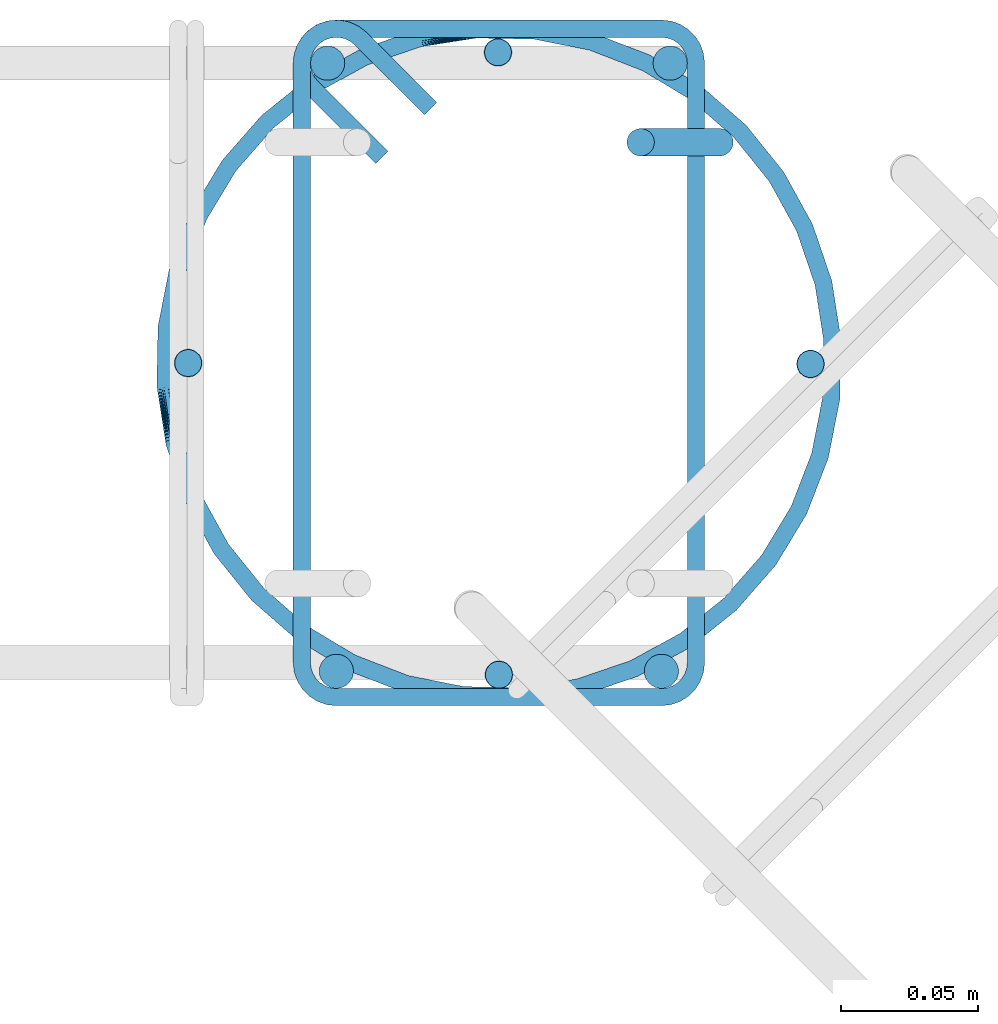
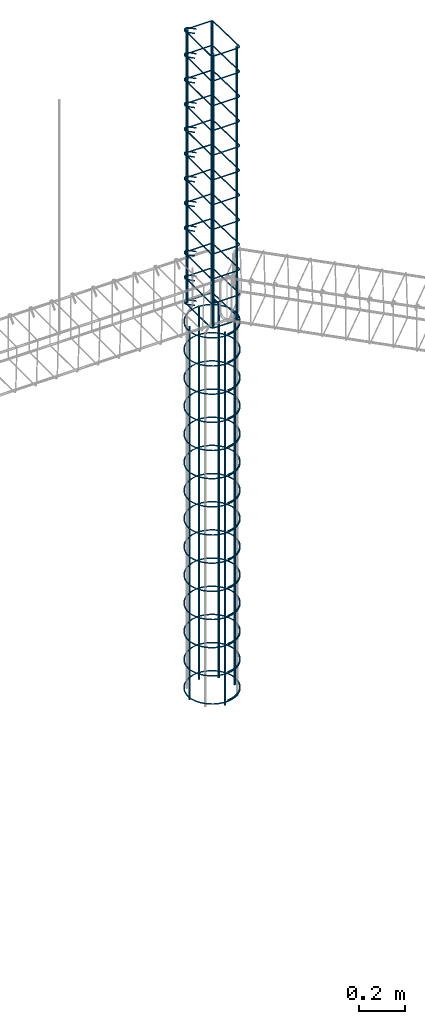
# One storey, part 12 of 14: 7 reinforcing bars.
"""IFC4 building model written with IfcOpenShell, lengths in centimetres."""

from ifc_helpers import new_model, entity, si_unit, converted_unit, derived_unit, direction, frame, origin, place, context, subcontext, project, spatial, type_object, element, save


model = new_model("IFC4")

# Units and contexts
model_context = context("Model", 3, precision=0.001, world=origin(), true_north=direction((6.123233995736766e-17, 1.0)))
body_context = subcontext(model_context, "Body", "Model", "MODEL_VIEW")
ifc_project = project(units=[si_unit("LENGTHUNIT", "METRE", prefix="CENTI"), si_unit("AREAUNIT", "SQUARE_METRE"), converted_unit("PLANEANGLEUNIT", "DEGREE", entity("IfcPlaneAngleMeasure", 0.017453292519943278), si_unit("PLANEANGLEUNIT", "RADIAN"), dimensions=[0, 0, 0, 0, 0, 0, 0]), si_unit("VOLUMEUNIT", "CUBIC_METRE"), derived_unit("THERMALTRANSMITTANCEUNIT", [(si_unit("MASSUNIT", "GRAM", prefix="KILO"), 1), (si_unit("THERMODYNAMICTEMPERATUREUNIT", "KELVIN"), -1), (si_unit("TIMEUNIT", "SECOND"), -3)])], contexts=[model_context])

# Site, building, storey
site_placement = place(None, origin())
site = spatial("IfcSite", under=ifc_project, at=site_placement, Name="Default", CompositionType="ELEMENT")
building_placement = place(site_placement, origin())
building = spatial("IfcBuilding", under=site, at=building_placement, Name="CONTENÇÃO DE ARQUIBANCADA - GINÁSIO PADRÃO", CompositionType="ELEMENT")
storey_placement = place(building_placement, frame((0.0, 0.0, -100.0)))
storey = spatial("IfcBuildingStorey", under=building, at=storey_placement, Name="Nível 3", CompositionType="ELEMENT", Elevation=-100.0)

# Reinforcing bars
reinforcing_bar_type_1 = type_object("IfcReinforcingBarType", Name="Barra do vergalhão:10 CA-50", PredefinedType="NOTDEFINED")
reinforcing_bar_1_placement = place(storey_placement, origin())
element("IfcReinforcingBar", 1, at=reinforcing_bar_1_placement, inside=storey, type_object=reinforcing_bar_type_1, Name="Barra do vergalhão:10 CA-50 : Forma 01", ObjectType="Barra do vergalhão:10 CA-50", context=body_context, shape_type="AdvancedSweptSolid", body=[
    entity("IfcSweptDiskSolid", entity("IfcIndexedPolyCurve", entity("IfcCartesianPointList3D", [[543.1267334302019, 249.06545923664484, -129.99999999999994], [543.1267334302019, 249.06545923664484, 68.00000000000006]]), None, False), 0.5, None, 0.0, 1.0),
    entity("IfcSweptDiskSolid", entity("IfcIndexedPolyCurve", entity("IfcCartesianPointList3D", [[565.8166005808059, 249.0327573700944, -129.99999999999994], [565.8166005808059, 249.0327573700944, 68.00000000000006]]), None, False), 0.5, None, 0.0, 1.0),
])
reinforcing_bar_2_placement = place(storey_placement, origin())
element("IfcReinforcingBar", 2, at=reinforcing_bar_2_placement, inside=storey, type_object=reinforcing_bar_type_1, Name="Barra do vergalhão:10 CA-50 : Forma 01", ObjectType="Barra do vergalhão:10 CA-50", context=body_context, shape_type="AdvancedSweptSolid", body=[
    entity("IfcSweptDiskSolid", entity("IfcIndexedPolyCurve", entity("IfcCartesianPointList3D", [[554.4226142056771, 260.39404187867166, -129.99999999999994], [554.4226142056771, 260.39404187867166, 68.00000000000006]]), None, False), 0.5, None, 0.0, 1.0),
    entity("IfcSweptDiskSolid", entity("IfcIndexedPolyCurve", entity("IfcCartesianPointList3D", [[554.4553160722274, 237.70417472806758, -129.99999999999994], [554.4553160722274, 237.70417472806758, 68.00000000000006]]), None, False), 0.5, None, 0.0, 1.0),
])
reinforcing_bar_3_placement = place(storey_placement, origin())
element("IfcReinforcingBar", 3, at=reinforcing_bar_3_placement, inside=storey, type_object=reinforcing_bar_type_1, Name="Barra do vergalhão:10 CA-50 : Forma 19", ObjectType="Barra do vergalhão:10 CA-50", context=body_context, shape_type="AdvancedSweptSolid", body=[
    entity("IfcSweptDiskSolid", entity("IfcIndexedPolyCurve", entity("IfcCartesianPointList3D", [[562.4961308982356, 257.11499005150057, -129.99999999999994], [562.496130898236, 257.11499005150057, 67.4289900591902], [562.3214814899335, 257.11499005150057, 68.43764958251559], [561.8178682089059, 257.11499005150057, 69.32886791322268], [560.3023062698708, 257.11499005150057, 71.18095366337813], [559.7986929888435, 257.11499005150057, 72.07217199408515], [559.6240435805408, 257.1149900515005, 73.08083151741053], [559.6240435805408, 257.1149900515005, 92.00982157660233]]), [entity("IfcLineIndex", [1, 2]), entity("IfcArcIndex", [2, 3, 4]), entity("IfcLineIndex", [4, 5]), entity("IfcArcIndex", [5, 6, 7]), entity("IfcLineIndex", [7, 8])], False), 0.5, None, 0.0, 81.58693171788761),
])
reinforcing_bar_type_2 = type_object("IfcReinforcingBarType", Name="Barra do vergalhão:12.5 CA-50", PredefinedType="NOTDEFINED")
reinforcing_bar_4_placement = place(storey_placement, origin())
element("IfcReinforcingBar", 4, at=reinforcing_bar_4_placement, inside=storey, type_object=reinforcing_bar_type_2, Name="Barra do vergalhão:12.5 CA-50 : Forma 01", ObjectType="Barra do vergalhão:12.5 CA-50", context=body_context, shape_type="AdvancedSweptSolid", body=[
    entity("IfcSweptDiskSolid", entity("IfcIndexedPolyCurve", entity("IfcCartesianPointList3D", [[560.7003160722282, 259.9991752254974, 72.5], [560.7003160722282, 259.9991752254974, 217.5]]), None, False), 0.625, None, 0.0, 1.0),
    entity("IfcSweptDiskSolid", entity("IfcIndexedPolyCurve", entity("IfcCartesianPointList3D", [[548.2103160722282, 259.9991752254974, 72.5], [548.2103160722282, 259.9991752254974, 217.5]]), None, False), 0.625, None, 0.0, 1.0),
])
reinforcing_bar_5_placement = place(storey_placement, origin())
element("IfcReinforcingBar", 5, at=reinforcing_bar_5_placement, inside=storey, type_object=reinforcing_bar_type_2, Name="Barra do vergalhão:12.5 CA-50 : Forma 01", ObjectType="Barra do vergalhão:12.5 CA-50", context=body_context, shape_type="AdvancedSweptSolid", body=[
    entity("IfcSweptDiskSolid", entity("IfcIndexedPolyCurve", entity("IfcCartesianPointList3D", [[548.5303160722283, 237.82917522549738, 72.5], [548.5303160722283, 237.82917522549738, 217.5]]), None, False), 0.625, None, 0.0, 1.0),
    entity("IfcSweptDiskSolid", entity("IfcIndexedPolyCurve", entity("IfcCartesianPointList3D", [[560.3803160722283, 237.82917522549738, 72.5], [560.3803160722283, 237.82917522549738, 217.5]]), None, False), 0.625, None, 0.0, 1.0),
])
reinforcing_bar_type_3 = type_object("IfcReinforcingBarType", Name="Barra do vergalhão:6.3 CA-50", PredefinedType="NOTDEFINED")
reinforcing_bar_6_placement = place(storey_placement, origin())
element("IfcReinforcingBar", 6, at=reinforcing_bar_6_placement, inside=storey, type_object=reinforcing_bar_type_3, Name="Barra do vergalhão:6.3 CA-50 : Forma 22", ObjectType="Barra do vergalhão:6.3 CA-50", context=body_context, shape_type="AdvancedSweptSolid", body=[
    entity("IfcSweptDiskSolid", entity("IfcIndexedPolyCurve", entity("IfcCartesianPointList3D", [[551.971235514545, 258.34016487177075, 72.815], [549.4212706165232, 260.89012976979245, 72.815], [548.0481349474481, 261.16326343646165, 72.815], [547.2703160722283, 259.9991752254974, 72.815], [547.2703160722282, 238.1491752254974, 72.815], [547.6393615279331, 237.25822068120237, 72.815], [548.5303160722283, 236.8891752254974, 72.815], [560.3803160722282, 236.8891752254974, 72.815], [561.2712706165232, 237.25809742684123, 72.80546282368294], [561.6403160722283, 238.14875440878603, 72.78243804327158], [561.6403160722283, 259.9995960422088, 72.21756195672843], [561.2712706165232, 260.8902530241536, 72.19453717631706], [560.3803160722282, 261.2591752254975, 72.185], [548.5303160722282, 261.2591752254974, 72.185], [547.366227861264, 260.4813563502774, 72.185], [547.6393615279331, 259.1082206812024, 72.185], [550.189326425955, 256.55825578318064, 72.185]]), [entity("IfcLineIndex", [1, 2]), entity("IfcArcIndex", [2, 3, 4]), entity("IfcLineIndex", [4, 5]), entity("IfcArcIndex", [5, 6, 7]), entity("IfcLineIndex", [7, 8]), entity("IfcArcIndex", [8, 9, 10]), entity("IfcLineIndex", [10, 11]), entity("IfcArcIndex", [11, 12, 13]), entity("IfcLineIndex", [13, 14]), entity("IfcArcIndex", [14, 15, 16]), entity("IfcLineIndex", [16, 17])], False), 0.31499999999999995, None, 0.0, 546.0000000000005),
    entity("IfcSweptDiskSolid", entity("IfcIndexedPolyCurve", entity("IfcCartesianPointList3D", [[551.971235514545, 258.34016487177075, 85.93954545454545], [549.4212706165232, 260.89012976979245, 85.93954545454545], [548.0481349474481, 261.16326343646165, 85.93954545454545], [547.2703160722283, 259.9991752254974, 85.93954545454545], [547.2703160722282, 238.1491752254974, 85.93954545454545], [547.6393615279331, 237.25822068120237, 85.93954545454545], [548.5303160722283, 236.8891752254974, 85.93954545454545], [560.3803160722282, 236.8891752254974, 85.93954545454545], [561.2712706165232, 237.25809742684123, 85.93000827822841], [561.6403160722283, 238.14875440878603, 85.90698349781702], [561.6403160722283, 259.9995960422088, 85.34210741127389], [561.2712706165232, 260.8902530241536, 85.31908263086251], [560.3803160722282, 261.2591752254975, 85.30954545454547], [548.5303160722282, 261.2591752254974, 85.30954545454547], [547.366227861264, 260.4813563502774, 85.30954545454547], [547.6393615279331, 259.1082206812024, 85.30954545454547], [550.189326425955, 256.55825578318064, 85.30954545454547]]), [entity("IfcLineIndex", [1, 2]), entity("IfcArcIndex", [2, 3, 4]), entity("IfcLineIndex", [4, 5]), entity("IfcArcIndex", [5, 6, 7]), entity("IfcLineIndex", [7, 8]), entity("IfcArcIndex", [8, 9, 10]), entity("IfcLineIndex", [10, 11]), entity("IfcArcIndex", [11, 12, 13]), entity("IfcLineIndex", [13, 14]), entity("IfcArcIndex", [14, 15, 16]), entity("IfcLineIndex", [16, 17])], False), 0.31499999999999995, None, 0.0, 546.0000000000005),
    entity("IfcSweptDiskSolid", entity("IfcIndexedPolyCurve", entity("IfcCartesianPointList3D", [[551.971235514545, 258.34016487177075, 99.06409090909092], [549.4212706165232, 260.89012976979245, 99.06409090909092], [548.0481349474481, 261.16326343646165, 99.06409090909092], [547.2703160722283, 259.9991752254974, 99.06409090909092], [547.2703160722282, 238.1491752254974, 99.06409090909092], [547.6393615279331, 237.25822068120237, 99.06409090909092], [548.5303160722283, 236.8891752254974, 99.06409090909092], [560.3803160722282, 236.8891752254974, 99.06409090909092], [561.2712706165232, 237.25809742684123, 99.05455373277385], [561.6403160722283, 238.14875440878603, 99.03152895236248], [561.6403160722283, 259.9995960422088, 98.46665286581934], [561.2712706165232, 260.8902530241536, 98.44362808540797], [560.3803160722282, 261.2591752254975, 98.43409090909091], [548.5303160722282, 261.2591752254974, 98.43409090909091], [547.366227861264, 260.4813563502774, 98.43409090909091], [547.6393615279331, 259.1082206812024, 98.43409090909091], [550.189326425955, 256.55825578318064, 98.43409090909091]]), [entity("IfcLineIndex", [1, 2]), entity("IfcArcIndex", [2, 3, 4]), entity("IfcLineIndex", [4, 5]), entity("IfcArcIndex", [5, 6, 7]), entity("IfcLineIndex", [7, 8]), entity("IfcArcIndex", [8, 9, 10]), entity("IfcLineIndex", [10, 11]), entity("IfcArcIndex", [11, 12, 13]), entity("IfcLineIndex", [13, 14]), entity("IfcArcIndex", [14, 15, 16]), entity("IfcLineIndex", [16, 17])], False), 0.31499999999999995, None, 0.0, 546.0000000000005),
    entity("IfcSweptDiskSolid", entity("IfcIndexedPolyCurve", entity("IfcCartesianPointList3D", [[551.971235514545, 258.34016487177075, 112.18863636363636], [549.4212706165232, 260.89012976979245, 112.18863636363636], [548.0481349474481, 261.16326343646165, 112.18863636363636], [547.2703160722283, 259.9991752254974, 112.18863636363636], [547.2703160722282, 238.1491752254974, 112.18863636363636], [547.6393615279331, 237.25822068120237, 112.18863636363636], [548.5303160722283, 236.8891752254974, 112.18863636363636], [560.3803160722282, 236.8891752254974, 112.18863636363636], [561.2712706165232, 237.25809742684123, 112.17909918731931], [561.6403160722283, 238.14875440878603, 112.15607440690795], [561.6403160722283, 259.9995960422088, 111.5911983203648], [561.2712706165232, 260.8902530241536, 111.56817353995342], [560.3803160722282, 261.2591752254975, 111.55863636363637], [548.5303160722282, 261.2591752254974, 111.55863636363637], [547.366227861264, 260.4813563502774, 111.55863636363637], [547.6393615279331, 259.1082206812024, 111.55863636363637], [550.189326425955, 256.55825578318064, 111.55863636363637]]), [entity("IfcLineIndex", [1, 2]), entity("IfcArcIndex", [2, 3, 4]), entity("IfcLineIndex", [4, 5]), entity("IfcArcIndex", [5, 6, 7]), entity("IfcLineIndex", [7, 8]), entity("IfcArcIndex", [8, 9, 10]), entity("IfcLineIndex", [10, 11]), entity("IfcArcIndex", [11, 12, 13]), entity("IfcLineIndex", [13, 14]), entity("IfcArcIndex", [14, 15, 16]), entity("IfcLineIndex", [16, 17])], False), 0.31499999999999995, None, 0.0, 546.0000000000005),
    entity("IfcSweptDiskSolid", entity("IfcIndexedPolyCurve", entity("IfcCartesianPointList3D", [[551.971235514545, 258.34016487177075, 125.31318181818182], [549.4212706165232, 260.89012976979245, 125.31318181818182], [548.0481349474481, 261.16326343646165, 125.31318181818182], [547.2703160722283, 259.9991752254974, 125.31318181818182], [547.2703160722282, 238.1491752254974, 125.31318181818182], [547.6393615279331, 237.25822068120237, 125.31318181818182], [548.5303160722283, 236.8891752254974, 125.31318181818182], [560.3803160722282, 236.8891752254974, 125.31318181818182], [561.2712706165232, 237.25809742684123, 125.30364464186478], [561.6403160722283, 238.14875440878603, 125.28061986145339], [561.6403160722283, 259.9995960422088, 124.71574377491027], [561.2712706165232, 260.8902530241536, 124.69271899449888], [560.3803160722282, 261.2591752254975, 124.68318181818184], [548.5303160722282, 261.2591752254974, 124.68318181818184], [547.366227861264, 260.4813563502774, 124.68318181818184], [547.6393615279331, 259.1082206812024, 124.68318181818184], [550.189326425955, 256.55825578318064, 124.68318181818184]]), [entity("IfcLineIndex", [1, 2]), entity("IfcArcIndex", [2, 3, 4]), entity("IfcLineIndex", [4, 5]), entity("IfcArcIndex", [5, 6, 7]), entity("IfcLineIndex", [7, 8]), entity("IfcArcIndex", [8, 9, 10]), entity("IfcLineIndex", [10, 11]), entity("IfcArcIndex", [11, 12, 13]), entity("IfcLineIndex", [13, 14]), entity("IfcArcIndex", [14, 15, 16]), entity("IfcLineIndex", [16, 17])], False), 0.31499999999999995, None, 0.0, 546.0000000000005),
    entity("IfcSweptDiskSolid", entity("IfcIndexedPolyCurve", entity("IfcCartesianPointList3D", [[551.971235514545, 258.34016487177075, 138.43772727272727], [549.4212706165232, 260.89012976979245, 138.43772727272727], [548.0481349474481, 261.16326343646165, 138.43772727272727], [547.2703160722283, 259.9991752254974, 138.43772727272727], [547.2703160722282, 238.1491752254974, 138.43772727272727], [547.6393615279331, 237.25822068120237, 138.43772727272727], [548.5303160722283, 236.8891752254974, 138.43772727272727], [560.3803160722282, 236.8891752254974, 138.43772727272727], [561.2712706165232, 237.25809742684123, 138.42819009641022], [561.6403160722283, 238.14875440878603, 138.40516531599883], [561.6403160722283, 259.9995960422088, 137.84028922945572], [561.2712706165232, 260.8902530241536, 137.81726444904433], [560.3803160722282, 261.2591752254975, 137.80772727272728], [548.5303160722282, 261.2591752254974, 137.80772727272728], [547.366227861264, 260.4813563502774, 137.80772727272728], [547.6393615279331, 259.1082206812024, 137.80772727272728], [550.189326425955, 256.55825578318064, 137.80772727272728]]), [entity("IfcLineIndex", [1, 2]), entity("IfcArcIndex", [2, 3, 4]), entity("IfcLineIndex", [4, 5]), entity("IfcArcIndex", [5, 6, 7]), entity("IfcLineIndex", [7, 8]), entity("IfcArcIndex", [8, 9, 10]), entity("IfcLineIndex", [10, 11]), entity("IfcArcIndex", [11, 12, 13]), entity("IfcLineIndex", [13, 14]), entity("IfcArcIndex", [14, 15, 16]), entity("IfcLineIndex", [16, 17])], False), 0.31499999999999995, None, 0.0, 546.0000000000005),
    entity("IfcSweptDiskSolid", entity("IfcIndexedPolyCurve", entity("IfcCartesianPointList3D", [[551.971235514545, 258.34016487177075, 151.56227272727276], [549.4212706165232, 260.89012976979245, 151.56227272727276], [548.0481349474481, 261.16326343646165, 151.56227272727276], [547.2703160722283, 259.9991752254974, 151.56227272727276], [547.2703160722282, 238.1491752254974, 151.56227272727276], [547.6393615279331, 237.25822068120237, 151.56227272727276], [548.5303160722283, 236.8891752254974, 151.56227272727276], [560.3803160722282, 236.8891752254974, 151.56227272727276], [561.2712706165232, 237.25809742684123, 151.55273555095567], [561.6403160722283, 238.14875440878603, 151.5297107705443], [561.6403160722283, 259.9995960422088, 150.96483468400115], [561.2712706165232, 260.8902530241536, 150.94180990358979], [560.3803160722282, 261.2591752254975, 150.93227272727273], [548.5303160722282, 261.2591752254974, 150.93227272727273], [547.366227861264, 260.4813563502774, 150.93227272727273], [547.6393615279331, 259.1082206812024, 150.93227272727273], [550.189326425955, 256.55825578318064, 150.93227272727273]]), [entity("IfcLineIndex", [1, 2]), entity("IfcArcIndex", [2, 3, 4]), entity("IfcLineIndex", [4, 5]), entity("IfcArcIndex", [5, 6, 7]), entity("IfcLineIndex", [7, 8]), entity("IfcArcIndex", [8, 9, 10]), entity("IfcLineIndex", [10, 11]), entity("IfcArcIndex", [11, 12, 13]), entity("IfcLineIndex", [13, 14]), entity("IfcArcIndex", [14, 15, 16]), entity("IfcLineIndex", [16, 17])], False), 0.31499999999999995, None, 0.0, 546.0000000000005),
    entity("IfcSweptDiskSolid", entity("IfcIndexedPolyCurve", entity("IfcCartesianPointList3D", [[551.971235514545, 258.34016487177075, 164.68681818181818], [549.4212706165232, 260.89012976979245, 164.68681818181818], [548.0481349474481, 261.16326343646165, 164.68681818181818], [547.2703160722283, 259.9991752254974, 164.68681818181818], [547.2703160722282, 238.1491752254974, 164.68681818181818], [547.6393615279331, 237.25822068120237, 164.68681818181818], [548.5303160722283, 236.8891752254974, 164.68681818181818], [560.3803160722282, 236.8891752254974, 164.68681818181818], [561.2712706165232, 237.25809742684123, 164.67728100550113], [561.6403160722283, 238.14875440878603, 164.65425622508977], [561.6403160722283, 259.9995960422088, 164.0893801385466], [561.2712706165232, 260.8902530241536, 164.06635535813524], [560.3803160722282, 261.2591752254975, 164.0568181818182], [548.5303160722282, 261.2591752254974, 164.0568181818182], [547.366227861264, 260.4813563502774, 164.0568181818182], [547.6393615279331, 259.1082206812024, 164.0568181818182], [550.189326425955, 256.55825578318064, 164.0568181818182]]), [entity("IfcLineIndex", [1, 2]), entity("IfcArcIndex", [2, 3, 4]), entity("IfcLineIndex", [4, 5]), entity("IfcArcIndex", [5, 6, 7]), entity("IfcLineIndex", [7, 8]), entity("IfcArcIndex", [8, 9, 10]), entity("IfcLineIndex", [10, 11]), entity("IfcArcIndex", [11, 12, 13]), entity("IfcLineIndex", [13, 14]), entity("IfcArcIndex", [14, 15, 16]), entity("IfcLineIndex", [16, 17])], False), 0.31499999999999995, None, 0.0, 546.0000000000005),
    entity("IfcSweptDiskSolid", entity("IfcIndexedPolyCurve", entity("IfcCartesianPointList3D", [[551.971235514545, 258.34016487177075, 177.81136363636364], [549.4212706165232, 260.89012976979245, 177.81136363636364], [548.0481349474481, 261.16326343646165, 177.81136363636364], [547.2703160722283, 259.9991752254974, 177.81136363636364], [547.2703160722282, 238.1491752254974, 177.81136363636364], [547.6393615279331, 237.25822068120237, 177.81136363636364], [548.5303160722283, 236.8891752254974, 177.81136363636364], [560.3803160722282, 236.8891752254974, 177.81136363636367], [561.2712706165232, 237.25809742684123, 177.8018264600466], [561.6403160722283, 238.14875440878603, 177.77880167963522], [561.6403160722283, 259.9995960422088, 177.21392559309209], [561.2712706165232, 260.8902530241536, 177.1909008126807], [560.3803160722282, 261.2591752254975, 177.18136363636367], [548.5303160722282, 261.2591752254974, 177.18136363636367], [547.366227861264, 260.4813563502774, 177.18136363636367], [547.6393615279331, 259.1082206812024, 177.18136363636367], [550.189326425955, 256.55825578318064, 177.18136363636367]]), [entity("IfcLineIndex", [1, 2]), entity("IfcArcIndex", [2, 3, 4]), entity("IfcLineIndex", [4, 5]), entity("IfcArcIndex", [5, 6, 7]), entity("IfcLineIndex", [7, 8]), entity("IfcArcIndex", [8, 9, 10]), entity("IfcLineIndex", [10, 11]), entity("IfcArcIndex", [11, 12, 13]), entity("IfcLineIndex", [13, 14]), entity("IfcArcIndex", [14, 15, 16]), entity("IfcLineIndex", [16, 17])], False), 0.31499999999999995, None, 0.0, 546.0000000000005),
    entity("IfcSweptDiskSolid", entity("IfcIndexedPolyCurve", entity("IfcCartesianPointList3D", [[551.971235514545, 258.34016487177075, 190.93590909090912], [549.4212706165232, 260.89012976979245, 190.93590909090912], [548.0481349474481, 261.16326343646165, 190.93590909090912], [547.2703160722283, 259.9991752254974, 190.93590909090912], [547.2703160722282, 238.1491752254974, 190.93590909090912], [547.6393615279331, 237.25822068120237, 190.93590909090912], [548.5303160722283, 236.8891752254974, 190.93590909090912], [560.3803160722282, 236.8891752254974, 190.93590909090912], [561.2712706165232, 237.25809742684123, 190.92637191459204], [561.6403160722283, 238.14875440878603, 190.90334713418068], [561.6403160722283, 259.9995960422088, 190.33847104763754], [561.2712706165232, 260.8902530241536, 190.31544626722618], [560.3803160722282, 261.2591752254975, 190.30590909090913], [548.5303160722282, 261.2591752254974, 190.30590909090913], [547.366227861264, 260.4813563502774, 190.30590909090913], [547.6393615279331, 259.1082206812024, 190.30590909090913], [550.189326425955, 256.55825578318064, 190.30590909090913]]), [entity("IfcLineIndex", [1, 2]), entity("IfcArcIndex", [2, 3, 4]), entity("IfcLineIndex", [4, 5]), entity("IfcArcIndex", [5, 6, 7]), entity("IfcLineIndex", [7, 8]), entity("IfcArcIndex", [8, 9, 10]), entity("IfcLineIndex", [10, 11]), entity("IfcArcIndex", [11, 12, 13]), entity("IfcLineIndex", [13, 14]), entity("IfcArcIndex", [14, 15, 16]), entity("IfcLineIndex", [16, 17])], False), 0.31499999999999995, None, 0.0, 546.0000000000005),
    entity("IfcSweptDiskSolid", entity("IfcIndexedPolyCurve", entity("IfcCartesianPointList3D", [[551.971235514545, 258.34016487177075, 204.06045454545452], [549.4212706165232, 260.89012976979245, 204.06045454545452], [548.0481349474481, 261.16326343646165, 204.06045454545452], [547.2703160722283, 259.9991752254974, 204.06045454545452], [547.2703160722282, 238.1491752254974, 204.06045454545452], [547.6393615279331, 237.25822068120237, 204.06045454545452], [548.5303160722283, 236.8891752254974, 204.06045454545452], [560.3803160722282, 236.8891752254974, 204.06045454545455], [561.2712706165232, 237.25809742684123, 204.0509173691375], [561.6403160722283, 238.14875440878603, 204.02789258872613], [561.6403160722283, 259.9995960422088, 203.46301650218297], [561.2712706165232, 260.8902530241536, 203.43999172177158], [560.3803160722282, 261.2591752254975, 203.43045454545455], [548.5303160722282, 261.2591752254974, 203.43045454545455], [547.366227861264, 260.4813563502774, 203.43045454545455], [547.6393615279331, 259.1082206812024, 203.43045454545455], [550.189326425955, 256.55825578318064, 203.43045454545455]]), [entity("IfcLineIndex", [1, 2]), entity("IfcArcIndex", [2, 3, 4]), entity("IfcLineIndex", [4, 5]), entity("IfcArcIndex", [5, 6, 7]), entity("IfcLineIndex", [7, 8]), entity("IfcArcIndex", [8, 9, 10]), entity("IfcLineIndex", [10, 11]), entity("IfcArcIndex", [11, 12, 13]), entity("IfcLineIndex", [13, 14]), entity("IfcArcIndex", [14, 15, 16]), entity("IfcLineIndex", [16, 17])], False), 0.31499999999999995, None, 0.0, 546.0000000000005),
    entity("IfcSweptDiskSolid", entity("IfcIndexedPolyCurve", entity("IfcCartesianPointList3D", [[551.971235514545, 258.34016487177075, 217.185], [549.4212706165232, 260.89012976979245, 217.185], [548.0481349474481, 261.16326343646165, 217.185], [547.2703160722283, 259.9991752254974, 217.185], [547.2703160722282, 238.1491752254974, 217.185], [547.6393615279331, 237.25822068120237, 217.185], [548.5303160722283, 236.8891752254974, 217.185], [560.3803160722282, 236.8891752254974, 217.18500000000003], [561.2712706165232, 237.25809742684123, 217.17546282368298], [561.6403160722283, 238.14875440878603, 217.1524380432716], [561.6403160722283, 259.9995960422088, 216.58756195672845], [561.2712706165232, 260.8902530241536, 216.56453717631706], [560.3803160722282, 261.2591752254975, 216.55500000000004], [548.5303160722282, 261.2591752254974, 216.55500000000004], [547.366227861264, 260.4813563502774, 216.55500000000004], [547.6393615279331, 259.1082206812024, 216.55500000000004], [550.189326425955, 256.55825578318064, 216.55500000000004]]), [entity("IfcLineIndex", [1, 2]), entity("IfcArcIndex", [2, 3, 4]), entity("IfcLineIndex", [4, 5]), entity("IfcArcIndex", [5, 6, 7]), entity("IfcLineIndex", [7, 8]), entity("IfcArcIndex", [8, 9, 10]), entity("IfcLineIndex", [10, 11]), entity("IfcArcIndex", [11, 12, 13]), entity("IfcLineIndex", [13, 14]), entity("IfcArcIndex", [14, 15, 16]), entity("IfcLineIndex", [16, 17])], False), 0.31499999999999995, None, 0.0, 546.0000000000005),
])
reinforcing_bar_7_placement = place(storey_placement, origin())
element("IfcReinforcingBar", 7, at=reinforcing_bar_7_placement, inside=storey, type_object=reinforcing_bar_type_3, Name="Barra do vergalhão:6.3 CA-50 : Forma 33", ObjectType="Barra do vergalhão:6.3 CA-50", context=body_context, shape_type="AdvancedSweptSolid", body=[
    entity("IfcSweptDiskSolid", entity("IfcIndexedPolyCurve", entity("IfcCartesianPointList3D", [[555.2748352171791, 236.91676541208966, -127.19078734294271], [566.6127258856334, 249.89369437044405, -127.19078734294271], [553.635796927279, 261.23158503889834, -127.19078734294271], [545.2792416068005, 257.0912746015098, -127.50578734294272], [542.2979062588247, 248.25465608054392, -127.82078734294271], [555.2748352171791, 236.91676541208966, -127.82078734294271], [566.6127258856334, 249.893694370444, -127.82078734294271]]), [entity("IfcArcIndex", [1, 2, 3]), entity("IfcArcIndex", [3, 4, 5]), entity("IfcArcIndex", [5, 6, 7])], False), 0.31499999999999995, None, 0.0, 449.9458977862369),
    entity("IfcSweptDiskSolid", entity("IfcIndexedPolyCurve", entity("IfcCartesianPointList3D", [[555.2748352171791, 236.91676541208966, -112.23880370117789], [566.6127258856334, 249.89369437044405, -112.23880370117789], [553.635796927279, 261.23158503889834, -112.23880370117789], [545.2792416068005, 257.0912746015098, -112.5538037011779], [542.2979062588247, 248.25465608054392, -112.86880370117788], [555.2748352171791, 236.91676541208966, -112.86880370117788], [566.6127258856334, 249.893694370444, -112.86880370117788]]), [entity("IfcArcIndex", [1, 2, 3]), entity("IfcArcIndex", [3, 4, 5]), entity("IfcArcIndex", [5, 6, 7])], False), 0.31499999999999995, None, 0.0, 449.9458977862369),
    entity("IfcSweptDiskSolid", entity("IfcIndexedPolyCurve", entity("IfcCartesianPointList3D", [[555.2748352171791, 236.91676541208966, -97.28682005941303], [566.6127258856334, 249.89369437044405, -97.28682005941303], [553.635796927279, 261.23158503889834, -97.28682005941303], [545.2792416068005, 257.0912746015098, -97.60182005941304], [542.2979062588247, 248.25465608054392, -97.91682005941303], [555.2748352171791, 236.91676541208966, -97.91682005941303], [566.6127258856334, 249.893694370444, -97.91682005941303]]), [entity("IfcArcIndex", [1, 2, 3]), entity("IfcArcIndex", [3, 4, 5]), entity("IfcArcIndex", [5, 6, 7])], False), 0.31499999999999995, None, 0.0, 449.9458977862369),
    entity("IfcSweptDiskSolid", entity("IfcIndexedPolyCurve", entity("IfcCartesianPointList3D", [[555.2748352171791, 236.91676541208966, -82.33483641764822], [566.6127258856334, 249.89369437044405, -82.33483641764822], [553.635796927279, 261.23158503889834, -82.33483641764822], [545.2792416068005, 257.0912746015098, -82.64983641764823], [542.2979062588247, 248.25465608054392, -82.9648364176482], [555.2748352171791, 236.91676541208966, -82.9648364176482], [566.6127258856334, 249.893694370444, -82.9648364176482]]), [entity("IfcArcIndex", [1, 2, 3]), entity("IfcArcIndex", [3, 4, 5]), entity("IfcArcIndex", [5, 6, 7])], False), 0.31499999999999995, None, 0.0, 449.9458977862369),
    entity("IfcSweptDiskSolid", entity("IfcIndexedPolyCurve", entity("IfcCartesianPointList3D", [[555.2748352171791, 236.91676541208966, -67.38285277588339], [566.6127258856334, 249.89369437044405, -67.38285277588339], [553.635796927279, 261.23158503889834, -67.38285277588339], [545.2792416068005, 257.0912746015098, -67.6978527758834], [542.2979062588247, 248.25465608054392, -68.01285277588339], [555.2748352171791, 236.91676541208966, -68.01285277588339], [566.6127258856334, 249.893694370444, -68.01285277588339]]), [entity("IfcArcIndex", [1, 2, 3]), entity("IfcArcIndex", [3, 4, 5]), entity("IfcArcIndex", [5, 6, 7])], False), 0.31499999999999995, None, 0.0, 449.9458977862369),
    entity("IfcSweptDiskSolid", entity("IfcIndexedPolyCurve", entity("IfcCartesianPointList3D", [[555.2748352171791, 236.91676541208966, -52.43086913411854], [566.6127258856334, 249.89369437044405, -52.43086913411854], [553.635796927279, 261.23158503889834, -52.430869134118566], [545.2792416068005, 257.0912746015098, -52.74586913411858], [542.2979062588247, 248.25465608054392, -53.06086913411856], [555.2748352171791, 236.91676541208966, -53.06086913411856], [566.6127258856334, 249.893694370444, -53.06086913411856]]), [entity("IfcArcIndex", [1, 2, 3]), entity("IfcArcIndex", [3, 4, 5]), entity("IfcArcIndex", [5, 6, 7])], False), 0.31499999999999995, None, 0.0, 449.9458977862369),
    entity("IfcSweptDiskSolid", entity("IfcIndexedPolyCurve", entity("IfcCartesianPointList3D", [[555.2748352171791, 236.91676541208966, -37.47888549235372], [566.6127258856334, 249.89369437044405, -37.47888549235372], [553.635796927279, 261.23158503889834, -37.47888549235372], [545.2792416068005, 257.0912746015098, -37.79388549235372], [542.2979062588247, 248.25465608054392, -38.10888549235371], [555.2748352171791, 236.91676541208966, -38.10888549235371], [566.6127258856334, 249.893694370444, -38.10888549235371]]), [entity("IfcArcIndex", [1, 2, 3]), entity("IfcArcIndex", [3, 4, 5]), entity("IfcArcIndex", [5, 6, 7])], False), 0.31499999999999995, None, 0.0, 449.9458977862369),
    entity("IfcSweptDiskSolid", entity("IfcIndexedPolyCurve", entity("IfcCartesianPointList3D", [[555.2748352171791, 236.91676541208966, -22.526901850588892], [566.6127258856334, 249.89369437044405, -22.526901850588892], [553.635796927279, 261.23158503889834, -22.526901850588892], [545.2792416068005, 257.0912746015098, -22.841901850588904], [542.2979062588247, 248.25465608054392, -23.156901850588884], [555.2748352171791, 236.91676541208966, -23.156901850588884], [566.6127258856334, 249.893694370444, -23.156901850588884]]), [entity("IfcArcIndex", [1, 2, 3]), entity("IfcArcIndex", [3, 4, 5]), entity("IfcArcIndex", [5, 6, 7])], False), 0.31499999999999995, None, 0.0, 449.9458977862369),
    entity("IfcSweptDiskSolid", entity("IfcIndexedPolyCurve", entity("IfcCartesianPointList3D", [[555.2748352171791, 236.91676541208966, -7.574918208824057], [566.6127258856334, 249.89369437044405, -7.574918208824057], [553.635796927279, 261.23158503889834, -7.57491820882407], [545.2792416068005, 257.0912746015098, -7.889918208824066], [542.2979062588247, 248.25465608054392, -8.204918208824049], [555.2748352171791, 236.91676541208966, -8.204918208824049], [566.6127258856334, 249.893694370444, -8.204918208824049]]), [entity("IfcArcIndex", [1, 2, 3]), entity("IfcArcIndex", [3, 4, 5]), entity("IfcArcIndex", [5, 6, 7])], False), 0.31499999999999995, None, 0.0, 449.9458977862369),
    entity("IfcSweptDiskSolid", entity("IfcIndexedPolyCurve", entity("IfcCartesianPointList3D", [[555.2748352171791, 236.91676541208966, 7.37706543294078], [566.6127258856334, 249.89369437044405, 7.37706543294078], [553.635796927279, 261.23158503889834, 7.377065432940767], [545.2792416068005, 257.0912746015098, 7.062065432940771], [542.2979062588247, 248.25465608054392, 6.747065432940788], [555.2748352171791, 236.91676541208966, 6.747065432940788], [566.6127258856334, 249.893694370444, 6.747065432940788]]), [entity("IfcArcIndex", [1, 2, 3]), entity("IfcArcIndex", [3, 4, 5]), entity("IfcArcIndex", [5, 6, 7])], False), 0.31499999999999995, None, 0.0, 449.9458977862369),
    entity("IfcSweptDiskSolid", entity("IfcIndexedPolyCurve", entity("IfcCartesianPointList3D", [[555.2748352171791, 236.91676541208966, 22.329049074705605], [566.6127258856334, 249.89369437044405, 22.329049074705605], [553.635796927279, 261.23158503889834, 22.32904907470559], [545.2792416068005, 257.0912746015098, 22.014049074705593], [542.2979062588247, 248.25465608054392, 21.699049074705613], [555.2748352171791, 236.91676541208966, 21.699049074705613], [566.6127258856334, 249.893694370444, 21.699049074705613]]), [entity("IfcArcIndex", [1, 2, 3]), entity("IfcArcIndex", [3, 4, 5]), entity("IfcArcIndex", [5, 6, 7])], False), 0.31499999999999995, None, 0.0, 449.9458977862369),
    entity("IfcSweptDiskSolid", entity("IfcIndexedPolyCurve", entity("IfcCartesianPointList3D", [[555.2748352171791, 236.91676541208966, 37.28103271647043], [566.6127258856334, 249.89369437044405, 37.28103271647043], [553.635796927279, 261.23158503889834, 37.28103271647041], [545.2792416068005, 257.0912746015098, 36.966032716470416], [542.2979062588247, 248.25465608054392, 36.65103271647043], [555.2748352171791, 236.91676541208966, 36.65103271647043], [566.6127258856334, 249.893694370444, 36.65103271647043]]), [entity("IfcArcIndex", [1, 2, 3]), entity("IfcArcIndex", [3, 4, 5]), entity("IfcArcIndex", [5, 6, 7])], False), 0.31499999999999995, None, 0.0, 449.9458977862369),
    entity("IfcSweptDiskSolid", entity("IfcIndexedPolyCurve", entity("IfcCartesianPointList3D", [[555.2748352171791, 236.91676541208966, 52.233016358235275], [566.6127258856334, 249.89369437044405, 52.233016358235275], [553.635796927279, 261.23158503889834, 52.23301635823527], [545.2792416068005, 257.0912746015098, 51.91801635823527], [542.2979062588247, 248.25465608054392, 51.60301635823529], [555.2748352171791, 236.91676541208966, 51.60301635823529], [566.6127258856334, 249.893694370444, 51.60301635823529]]), [entity("IfcArcIndex", [1, 2, 3]), entity("IfcArcIndex", [3, 4, 5]), entity("IfcArcIndex", [5, 6, 7])], False), 0.31499999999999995, None, 0.0, 449.9458977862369),
    entity("IfcSweptDiskSolid", entity("IfcIndexedPolyCurve", entity("IfcCartesianPointList3D", [[555.2748352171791, 236.91676541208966, 67.1850000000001], [566.6127258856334, 249.89369437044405, 67.1850000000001], [553.635796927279, 261.23158503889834, 67.1850000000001], [545.2792416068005, 257.0912746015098, 66.87000000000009], [542.2979062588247, 248.25465608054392, 66.5550000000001], [555.2748352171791, 236.91676541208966, 66.5550000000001], [566.6127258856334, 249.893694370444, 66.5550000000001]]), [entity("IfcArcIndex", [1, 2, 3]), entity("IfcArcIndex", [3, 4, 5]), entity("IfcArcIndex", [5, 6, 7])], False), 0.31499999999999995, None, 0.0, 449.9458977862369),
])

save(model, "model.ifc")
